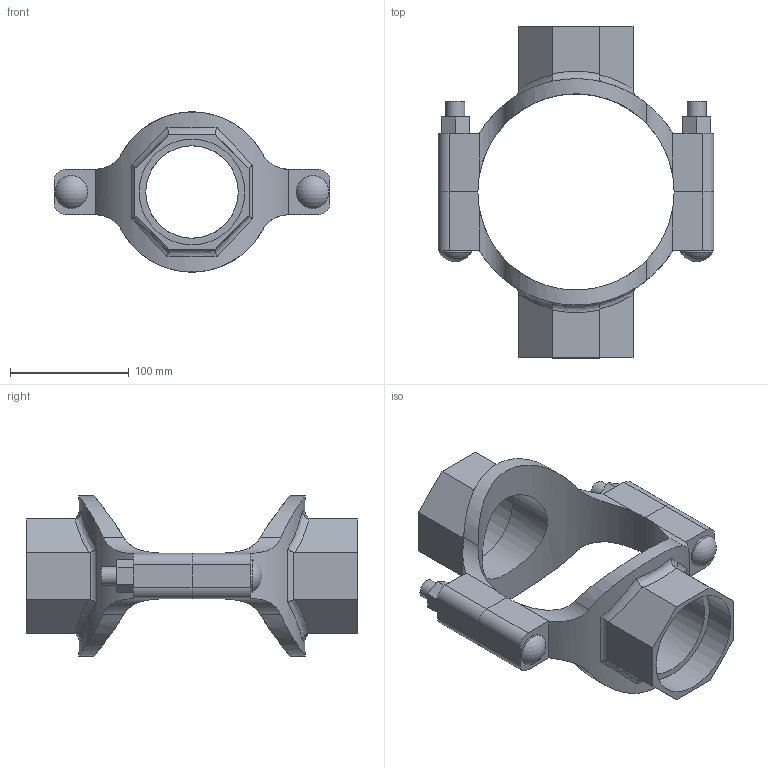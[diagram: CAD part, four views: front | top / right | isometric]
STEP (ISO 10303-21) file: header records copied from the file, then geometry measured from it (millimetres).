
FILE_DESCRIPTION(/* description */ ('VIC MECH-T BRANCH OUTLET CROSS STYLE 920N (THD)','CAx-IF Rec.Pracs.---Representation and Presentation of Product Manufacturing Information (PMI)---4.0---2014-10-13'),/* implementation_level */ '2;1');
FILE_NAME(/* name */ 'C:\Users\Vjadhav\AppData\Roaming\Autodesk\ApplicationPlugins\Back Up\Victaulic_IPS_Mechanical-Cross Outlet_Style 920N (FPT)\Victaulic_IPS_Mechanical-Cross Outlet_06.0 (165.1)x03.0x03.0 (150x80x80).stp',/* time_stamp */ '2020-08-06T19:00:37+06:00',/* author */ ('Vjadhav'),/* organization */ ('Victaulic'),/* preprocessor_version */ 'ST-DEVELOPER v17.2',/* originating_system */ 'Autodesk Inventor 2019',/* authorisation */ '');
FILE_SCHEMA (('AP242_MANAGED_MODEL_BASED_3D_ENGINEERING_MIM_LF { 1 0 10303 442 1 1 4 }'));
Length unit declared in the file: inch
Products named in the file (3): 920NT-06.0 (165.1)x03.0x03.0; 920T-06.0 (165.1)x03.0; 920T-06.0 (165.1)x03.0_1
Assembly tree (2 placements, depth 2):
  920NT-06.0 (165.1)x03.0x03.0
    920T-06.0 (165.1)x03.0
    920T-06.0 (165.1)x03.0_1
Bounding box: 231.9 x 279.4 x 134.85 mm (x, y, z)
Volume: 804753 mm3; surface area: 188781.6 mm2
Topology: 2 solids, 2 shells, 128 faces, 338 edges, 228 vertices
Faces by surface type: plane 68, cylinder 46, bspline 8, torus 4, sphere 2
Full cylindrical faces by diameter (mm): 15.875 x4, 27.496 x2, 77.787 x2, 88.9 x2
Entity records: 5202 total; most frequent: CARTESIAN_POINT 1797, ORIENTED_EDGE 676, DIRECTION 628, EDGE_CURVE 338, VERTEX_POINT 228, AXIS2_PLACEMENT_3D 223, LINE 182, VECTOR 182
